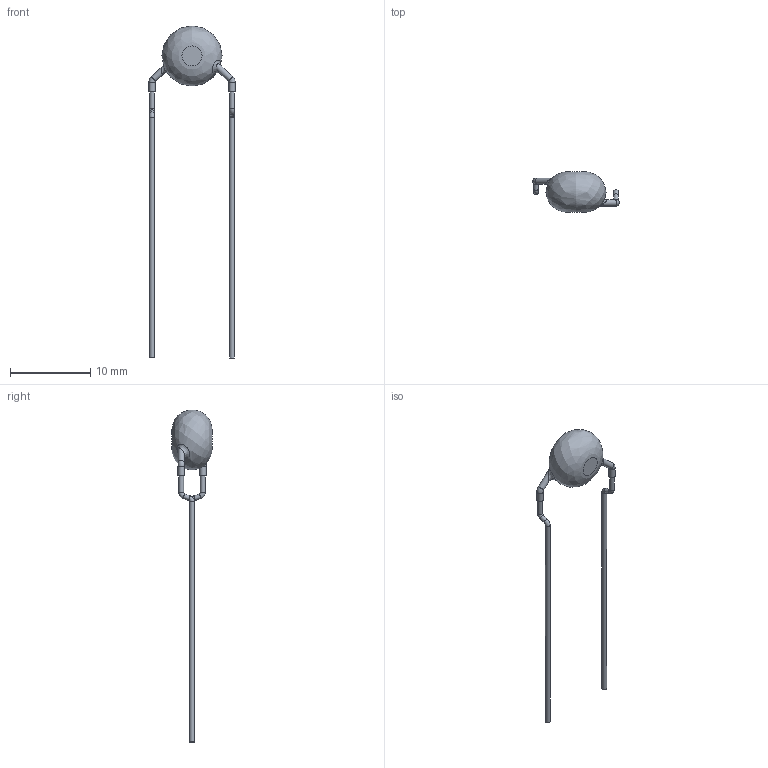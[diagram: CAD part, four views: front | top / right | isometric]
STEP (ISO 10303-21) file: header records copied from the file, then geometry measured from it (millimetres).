
FILE_DESCRIPTION((''),'2;1');
FILE_NAME('I:\Marketing\M6t1\3D-Models\Zchng-Werk-3\Upload for homepage\BCC\VY1-Compact\Y5U-10mm\VY1471M29Y5UC63V0\VY1471M29Y5UC63V0.stp','2015-09-01T11:50:08',('sherden'),(''),'Autodesk Inventor 2013','Autodesk Inventor 2013','');
FILE_SCHEMA(('CONFIG_CONTROL_DESIGN'));
Length unit declared in the file: millimetre
Products named in the file (1): VY1471M29Y5UC63V0
Bounding box: 10.8 x 5 x 41.5 mm (x, y, z)
Volume: 190.8 mm3; surface area: 297.6 mm2
Topology: 1 solids, 1 shells, 25 faces, 45 edges, 26 vertices
Faces by surface type: cylinder 10, torus 6, plane 6, bspline 3
Full cylindrical faces by diameter (mm): 0.6 x6, 0.8 x4
Entity records: 893 total; most frequent: CARTESIAN_POINT 420, DIRECTION 90, ORIENTED_EDGE 52, EDGE_LOOP 46, AXIS2_PLACEMENT_3D 45, EDGE_CURVE 26, STYLED_ITEM 26, FACE_OUTER_BOUND 25
